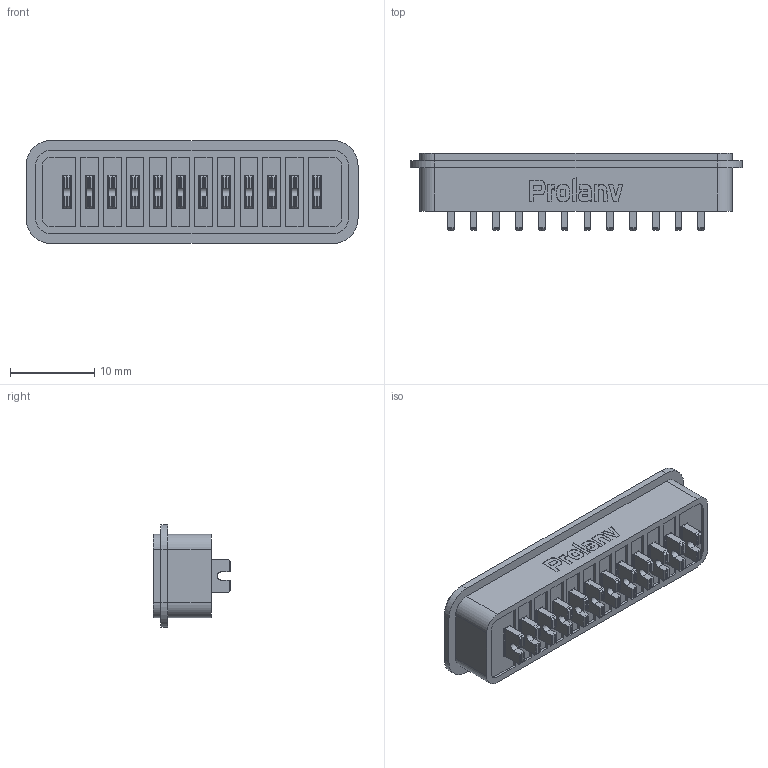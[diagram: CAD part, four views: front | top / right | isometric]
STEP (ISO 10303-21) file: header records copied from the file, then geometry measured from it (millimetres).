
FILE_DESCRIPTION(/* description */ (''),/* implementation_level */ '2;1');
FILE_NAME(/* name */ 'PDC1610B0011－石头档.stp',/* time_stamp */ '2025-02-18T16:36:04+08:00',/* author */ (''),/* organization */ (''),/* preprocessor_version */ 'ST-DEVELOPER v16.7',/* originating_system */ 'SIEMENS PLM Software NX 1946',/* authorisation */ '');
FILE_SCHEMA (('AUTOMOTIVE_DESIGN { 1 0 10303 214 3 1 1 1 }'));
Products named in the file (1): _model1
Bounding box: 39.4 x 9.2 x 12.2 mm (x, y, z)
Volume: 1685.6 mm3; surface area: 4066.5 mm2
Topology: 1 solids, 1 shells, 1680 faces, 4646 edges, 3076 vertices
Faces by surface type: plane 1034, cylinder 576, extrusion 58, cone 12
Entity records: 62995 total; most frequent: CARTESIAN_POINT 10639, ORIENTED_EDGE 9292, DIRECTION 8990, EDGE_CURVE 4646, VECTOR 3312, LINE 3254, VERTEX_POINT 3076, AXIS2_PLACEMENT_3D 2839
